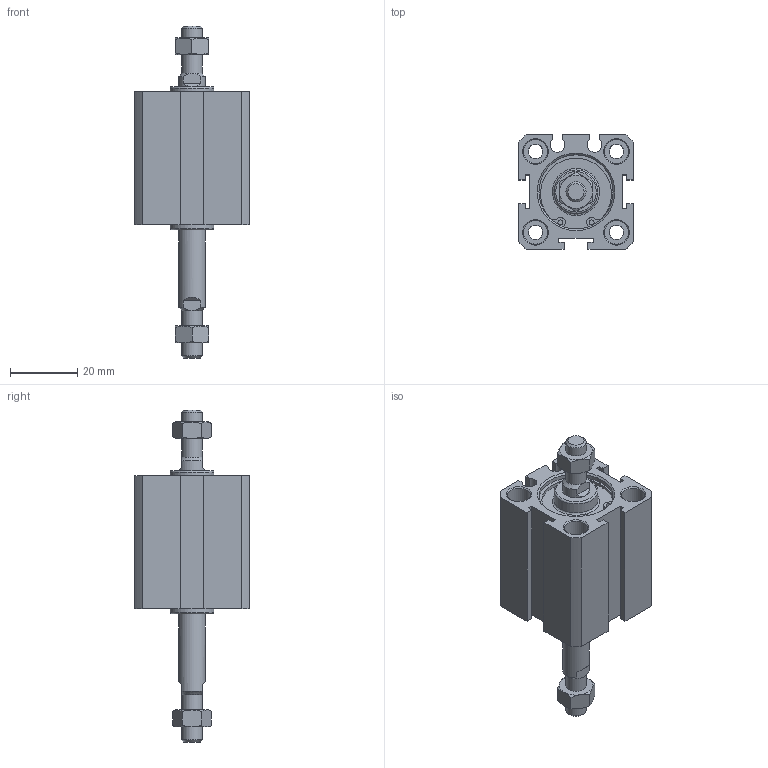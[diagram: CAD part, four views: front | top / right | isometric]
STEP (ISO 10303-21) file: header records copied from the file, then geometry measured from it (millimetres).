
FILE_DESCRIPTION((''),'2;1');
FILE_NAME('I:\3D電子目錄\氣缸\JDD\JDD-B\JDD20-B\JDD20x20-B.stp','2007-02-09T10:01:17',('662F206'),(''),'Autodesk Inventor 10','Autodesk Inventor 10','');
FILE_SCHEMA(('AUTOMOTIVE_DESIGN { 1 0 10303 214 1 1 1 1 }'));
Length unit declared in the file: millimetre
Products named in the file (3): JDD20-B; R 形環 23
Assembly tree (3 placements, depth 2):
  JDD20-B
    JDD20-B
    R 形環 23  x2
Bounding box: 34 x 34 x 98.5 mm (x, y, z)
Volume: 38915.6 mm3; surface area: 15265.4 mm2
Topology: 3 solids, 3 shells, 179 faces, 407 edges, 260 vertices
Faces by surface type: plane 84, cylinder 51, cone 32, bspline 10, torus 2
Full cylindrical faces by diameter (mm): 1.5 x6, 4.3 x4, 6 x4, 7 x8, 8 x1, 13 x2, 22 x4, 23.2 x2
Entity records: 4509 total; most frequent: CARTESIAN_POINT 953, DIRECTION 732, ORIENTED_EDGE 638, EDGE_CURVE 319, AXIS2_PLACEMENT_3D 294, EDGE_LOOP 256, VERTEX_POINT 233, FACE_OUTER_BOUND 167
